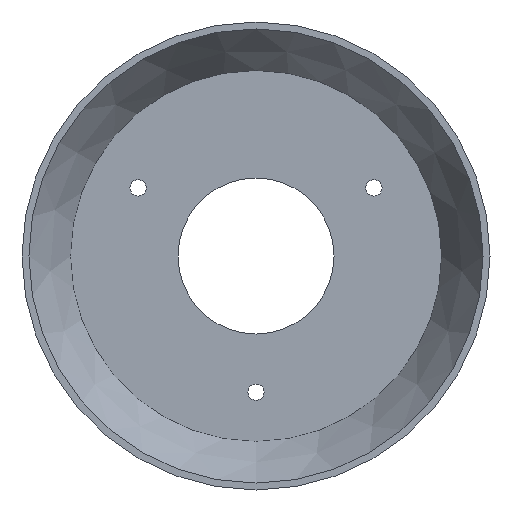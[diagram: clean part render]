
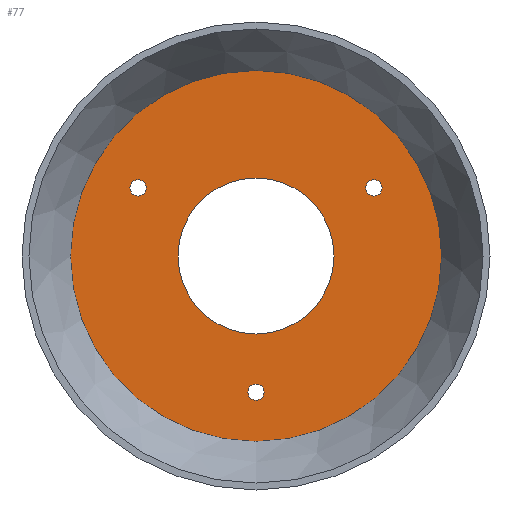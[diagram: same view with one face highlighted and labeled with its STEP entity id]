
A CAD part, front view. The second image highlights one B-rep face of the part: STEP entity #77.
In plain terms, the highlighted planar face has unit normal (0, -1, 0).
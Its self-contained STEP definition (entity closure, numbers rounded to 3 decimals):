
#77 = ADVANCED_FACE( '', ( #91, #92, #93, #94, #95 ), #96, .T. );
#91 = FACE_OUTER_BOUND( '', #124, .T. );
#92 = FACE_BOUND( '', #125, .T. );
#93 = FACE_BOUND( '', #126, .T. );
#94 = FACE_BOUND( '', #127, .T. );
#95 = FACE_BOUND( '', #128, .T. );
#96 = PLANE( '', #129 );
#124 = EDGE_LOOP( '', ( #161 ) );
#125 = EDGE_LOOP( '', ( #162 ) );
#126 = EDGE_LOOP( '', ( #163 ) );
#127 = EDGE_LOOP( '', ( #164 ) );
#128 = EDGE_LOOP( '', ( #165 ) );
#129 = AXIS2_PLACEMENT_3D( '', #166, #167, #168 );
#161 = ORIENTED_EDGE( '', *, *, #203, .T. );
#162 = ORIENTED_EDGE( '', *, *, #205, .T. );
#163 = ORIENTED_EDGE( '', *, *, #206, .T. );
#164 = ORIENTED_EDGE( '', *, *, #207, .T. );
#165 = ORIENTED_EDGE( '', *, *, #208, .F. );
#166 = CARTESIAN_POINT( '', ( 13., 12., 0. ) );
#167 = DIRECTION( '', ( 0., -1., 0. ) );
#168 = DIRECTION( '', ( 0., 0., -1. ) );
#203 = EDGE_CURVE( '', #216, #216, #217, .T. );
#205 = EDGE_CURVE( '', #220, #220, #221, .F. );
#206 = EDGE_CURVE( '', #222, #222, #223, .F. );
#207 = EDGE_CURVE( '', #224, #224, #225, .F. );
#208 = EDGE_CURVE( '', #226, #226, #227, .T. );
#216 = VERTEX_POINT( '', #240 );
#217 = CIRCLE( '', #241, 30.922 );
#220 = VERTEX_POINT( '', #244 );
#221 = CIRCLE( '', #245, 1.35 );
#222 = VERTEX_POINT( '', #246 );
#223 = CIRCLE( '', #247, 1.35 );
#224 = VERTEX_POINT( '', #248 );
#225 = CIRCLE( '', #249, 1.35 );
#226 = VERTEX_POINT( '', #250 );
#227 = CIRCLE( '', #251, 13. );
#240 = CARTESIAN_POINT( '', ( 0., 12., -30.922 ) );
#241 = AXIS2_PLACEMENT_3D( '', #265, #266, #267 );
#244 = CARTESIAN_POINT( '', ( 0., 12., -24.05 ) );
#245 = AXIS2_PLACEMENT_3D( '', #271, #272, #273 );
#246 = CARTESIAN_POINT( '', ( -19.659, 12., 10. ) );
#247 = AXIS2_PLACEMENT_3D( '', #274, #275, #276 );
#248 = CARTESIAN_POINT( '', ( 19.659, 12., 10. ) );
#249 = AXIS2_PLACEMENT_3D( '', #277, #278, #279 );
#250 = CARTESIAN_POINT( '', ( 0., 12., -13. ) );
#251 = AXIS2_PLACEMENT_3D( '', #280, #281, #282 );
#265 = CARTESIAN_POINT( '', ( 0., 12., 0. ) );
#266 = DIRECTION( '', ( 0., -1., 0. ) );
#267 = DIRECTION( '', ( 0., 0., -1. ) );
#271 = CARTESIAN_POINT( '', ( 0., 12., -22.7 ) );
#272 = DIRECTION( '', ( 0., -1., 0. ) );
#273 = DIRECTION( '', ( 0., 0., -1. ) );
#274 = CARTESIAN_POINT( '', ( -19.659, 12., 11.35 ) );
#275 = DIRECTION( '', ( 0., -1., 0. ) );
#276 = DIRECTION( '', ( 0., 0., -1. ) );
#277 = CARTESIAN_POINT( '', ( 19.659, 12., 11.35 ) );
#278 = DIRECTION( '', ( 0., -1., 0. ) );
#279 = DIRECTION( '', ( 0., 0., -1. ) );
#280 = CARTESIAN_POINT( '', ( 0., 12., 0. ) );
#281 = DIRECTION( '', ( 0., -1., 0. ) );
#282 = DIRECTION( '', ( 0., 0., -1. ) );
